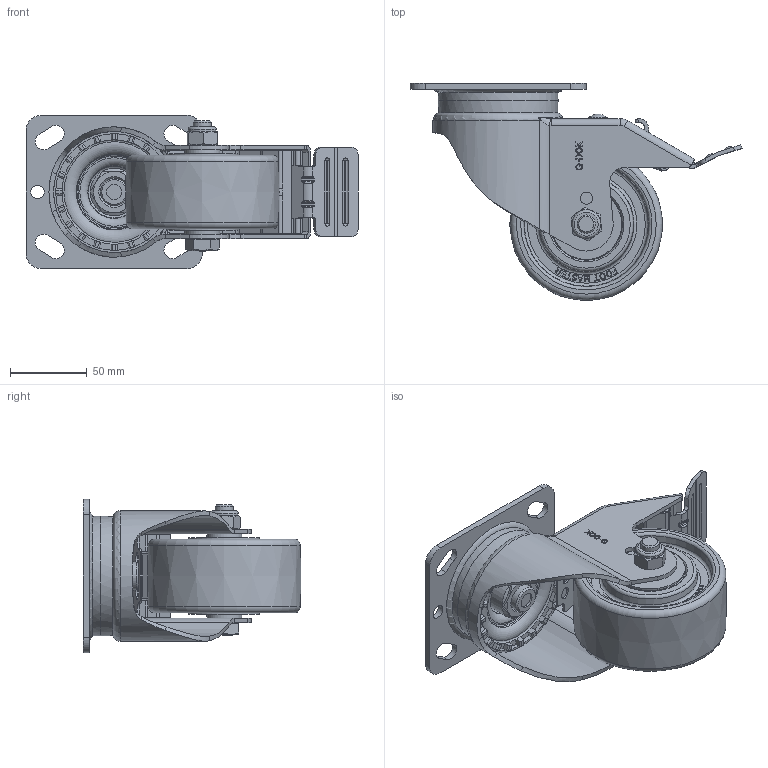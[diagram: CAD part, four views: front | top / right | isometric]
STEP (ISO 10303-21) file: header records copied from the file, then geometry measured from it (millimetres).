
FILE_DESCRIPTION(/* description */ (''),/* implementation_level */ '2;1');
FILE_NAME(/* name */ 'C:\Users\admin\Desktop\업무폴더\일자별 업무\2026\05월\05.15\변환\SPH-100-BSF-NYD.ipt.stp',/* time_stamp */ '2026-05-15T13:16:53+09:00',/* author */ ('admin'),/* organization */ ('지덕산업'),/* preprocessor_version */ 'ST-DEVELOPER v18.1',/* originating_system */ 'Autodesk Inventor 2021',/* authorisation */ '');
FILE_SCHEMA (('CONFIG_CONTROL_DESIGN'));
Products named in the file (1): SPH-100-BSF-NYD
Bounding box: 216.54 x 141.96 x 100 mm (x, y, z)
Volume: 577107.2 mm3; surface area: 131767.9 mm2
Topology: 1 solids, 2 shells, 1588 faces, 4317 edges, 2802 vertices
Faces by surface type: plane 706, bspline 512, cylinder 274, cone 49, torus 46, sphere 1
Full cylindrical faces by diameter (mm): 6 x1, 8 x5, 9 x3, 10 x1, 12 x2, 18 x2, 18.5 x1, 31 x1, 31.177 x1, 46.001 x2, 47 x2
Entity records: 53965 total; most frequent: CARTESIAN_POINT 16982, ORIENTED_EDGE 8598, DIRECTION 6119, EDGE_CURVE 4301, VERTEX_POINT 2802, LINE 2401, VECTOR 2401, AXIS2_PLACEMENT_3D 1859
